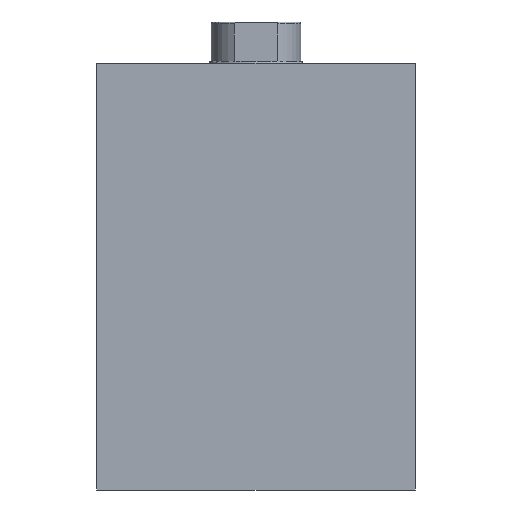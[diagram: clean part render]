
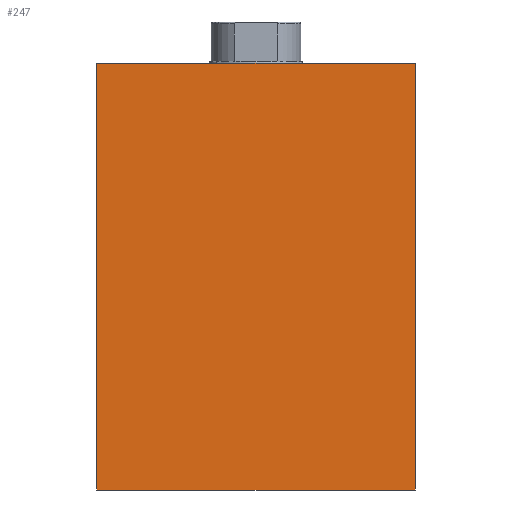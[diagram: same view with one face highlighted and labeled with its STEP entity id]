
A CAD part, left-side view. The second image highlights one B-rep face of the part: STEP entity #247.
In plain terms, the highlighted planar face has unit normal (-1, 0, 0) as drawn and (0, 0, -1) by its records, which use the part's own axes.
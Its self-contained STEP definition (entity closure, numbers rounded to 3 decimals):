
#247 = ADVANCED_FACE( '', ( #328 ), #329, .F. );
#328 = FACE_OUTER_BOUND( '', #524, .T. );
#329 = PLANE( '', #525 );
#524 = EDGE_LOOP( '', ( #739, #740, #741, #742 ) );
#525 = AXIS2_PLACEMENT_3D( '', #743, #744, #745 );
#739 = ORIENTED_EDGE( '', *, *, #1081, .T. );
#740 = ORIENTED_EDGE( '', *, *, #1097, .F. );
#741 = ORIENTED_EDGE( '', *, *, #1092, .F. );
#742 = ORIENTED_EDGE( '', *, *, #1096, .T. );
#743 = CARTESIAN_POINT( '', ( 114., -42.5, -31.5 ) );
#744 = DIRECTION( '', ( 0., 0., 1. ) );
#745 = DIRECTION( '', ( 1., 0., 0. ) );
#1081 = EDGE_CURVE( '', #1175, #1173, #1176, .T. );
#1092 = EDGE_CURVE( '', #1193, #1195, #1196, .T. );
#1096 = EDGE_CURVE( '', #1193, #1175, #1202, .T. );
#1097 = EDGE_CURVE( '', #1195, #1173, #1203, .T. );
#1173 = VERTEX_POINT( '', #1406 );
#1175 = VERTEX_POINT( '', #1409 );
#1176 = LINE( '', #1410, #1411 );
#1193 = VERTEX_POINT( '', #1600 );
#1195 = VERTEX_POINT( '', #1603 );
#1196 = LINE( '', #1604, #1605 );
#1202 = B_SPLINE_CURVE_WITH_KNOTS( '', 1, ( #1678, #1679 ), .UNSPECIFIED., .F., .F., ( 2, 2 ), ( 0., 1. ), .UNSPECIFIED. );
#1203 = B_SPLINE_CURVE_WITH_KNOTS( '', 1, ( #1680, #1681 ), .UNSPECIFIED., .F., .F., ( 2, 2 ), ( 0., 1. ), .UNSPECIFIED. );
#1406 = CARTESIAN_POINT( '', ( 0., 42.5, -31.5 ) );
#1409 = CARTESIAN_POINT( '', ( 0., -42.5, -31.5 ) );
#1410 = CARTESIAN_POINT( '', ( 0., -42.5, -31.5 ) );
#1411 = VECTOR( '', #3779, 1000. );
#1600 = CARTESIAN_POINT( '', ( 114., -42.5, -31.5 ) );
#1603 = CARTESIAN_POINT( '', ( 114., 42.5, -31.5 ) );
#1604 = CARTESIAN_POINT( '', ( 114., -42.5, -31.5 ) );
#1605 = VECTOR( '', #3783, 1000. );
#1678 = CARTESIAN_POINT( '', ( 114., -42.5, -31.5 ) );
#1679 = CARTESIAN_POINT( '', ( 0., -42.5, -31.5 ) );
#1680 = CARTESIAN_POINT( '', ( 114., 42.5, -31.5 ) );
#1681 = CARTESIAN_POINT( '', ( 0., 42.5, -31.5 ) );
#3779 = DIRECTION( '', ( 0., 1., 0. ) );
#3783 = DIRECTION( '', ( 0., 1., 0. ) );
